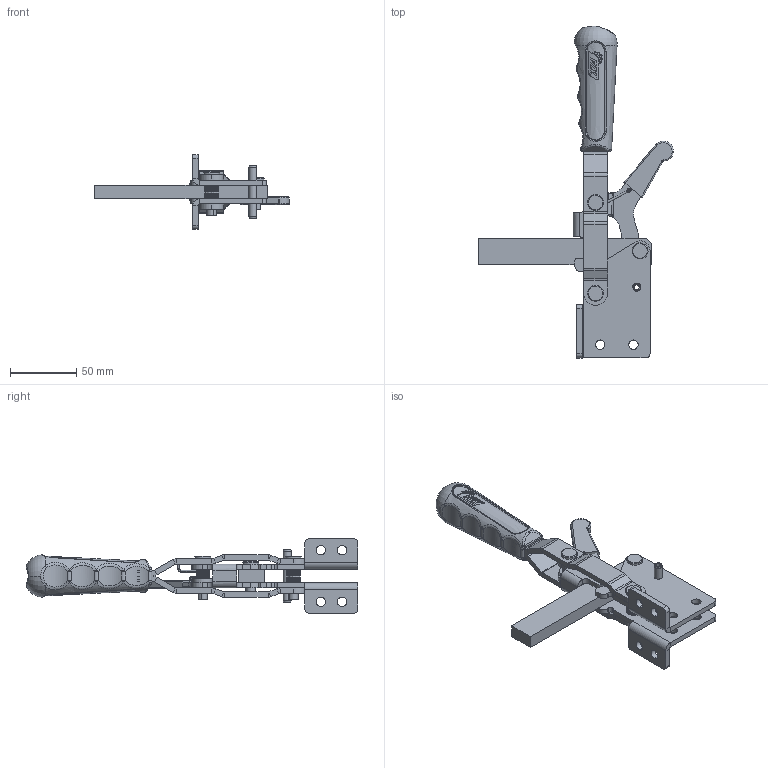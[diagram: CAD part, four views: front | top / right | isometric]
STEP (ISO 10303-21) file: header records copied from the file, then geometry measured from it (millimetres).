
FILE_DESCRIPTION (( 'STEP AP214' ), '1' );
FILE_NAME ('203_Y-K.STEP', '2024-09-09T16:30:18', ( '' ), ( '' ), 'SwSTEP 2.0', 'SolidWorks 2023', '' );
FILE_SCHEMA (( 'AUTOMOTIVE_DESIGN' ));
Length unit declared in the file: millimetre
Products named in the file (15): FZK_203_B_03_00; FZK_203_B_07_00; FZK_203_B_02_00; FZK_203_B_04_00; FZK_203_B_05_00; FZK_203_B-K_01_00; FZK_203_B_06_00; FZK_203_Y_01_00; DALDIRMA SAP; Ø6x40 YARIKLI PİM; 203_Y-K; FZK_203_B_03A_00; YAY 203_B-K; FZK_203_Y_02_00; TTMK_03_00
Assembly tree (18 placements, depth 3):
  203_Y-K
    FZK_203_B_05_00
    FZK_203_Y_02_00
    FZK_203_B_04_00  x2
    FZK_203_B_07_00  x2
    FZK_203_B_03_00
      FZK_203_B_03A_00  x2
    FZK_203_B_02_00
    TTMK_03_00
    FZK_203_B_06_00  x2
    FZK_203_Y_01_00
    Ø6x40 YARIKLI PİM
    FZK_203_B-K_01_00
    DALDIRMA SAP
    YAY 203_B-K
Bounding box: 146.59 x 249.71 x 56.01 mm (x, y, z)
Volume: 155765 mm3; surface area: 79796.6 mm2
Topology: 17 solids, 17 shells, 1305 faces, 3527 edges, 2258 vertices
Faces by surface type: cylinder 814, bspline 218, plane 196, cone 43, sphere 20, torus 14
Entity records: 46418 total; most frequent: CARTESIAN_POINT 26189, ORIENTED_EDGE 4806, DIRECTION 3031, EDGE_CURVE 2403, VERTEX_POINT 1540, B_SPLINE_CURVE_WITH_KNOTS 1212, AXIS2_PLACEMENT_3D 1149, EDGE_LOOP 973
